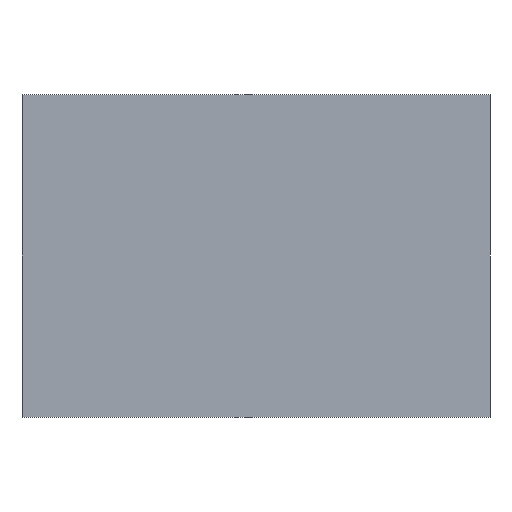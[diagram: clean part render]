
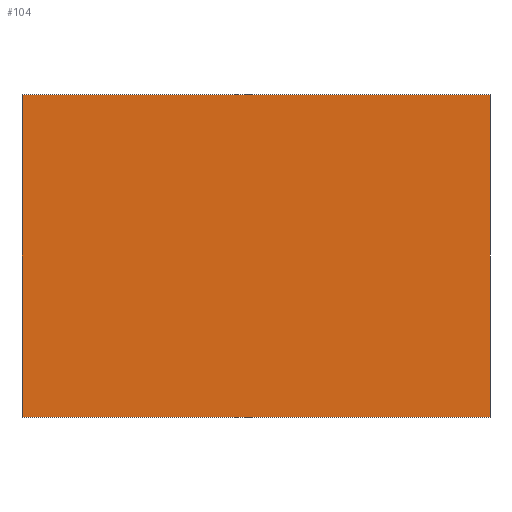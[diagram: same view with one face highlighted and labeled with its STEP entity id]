
A CAD part, left-side view. The second image highlights one B-rep face of the part: STEP entity #104.
In plain terms, the highlighted planar face has unit normal (-1, 0, 0).
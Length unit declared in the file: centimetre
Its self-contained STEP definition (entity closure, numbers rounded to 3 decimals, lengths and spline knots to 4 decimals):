
#18=FACE_OUTER_BOUND('',#24,.T.);
#24=EDGE_LOOP('',(#83,#84,#85,#86));
#29=LINE('',#161,#41);
#33=LINE('',#170,#45);
#35=LINE('',#173,#47);
#37=LINE('',#176,#49);
#41=VECTOR('',#133,1.);
#45=VECTOR('',#139,1.);
#47=VECTOR('',#143,1.);
#49=VECTOR('',#147,1.);
#53=VERTEX_POINT('',#158);
#54=VERTEX_POINT('',#160);
#57=VERTEX_POINT('',#167);
#58=VERTEX_POINT('',#169);
#61=EDGE_CURVE('',#53,#54,#29,.T.);
#65=EDGE_CURVE('',#57,#58,#33,.T.);
#67=EDGE_CURVE('',#54,#57,#35,.T.);
#69=EDGE_CURVE('',#53,#58,#37,.T.);
#83=ORIENTED_EDGE('',*,*,#69,.T.);
#84=ORIENTED_EDGE('',*,*,#65,.F.);
#85=ORIENTED_EDGE('',*,*,#67,.F.);
#86=ORIENTED_EDGE('',*,*,#61,.F.);
#98=PLANE('',#124);
#104=ADVANCED_FACE('',(#18),#98,.F.);
#124=AXIS2_PLACEMENT_3D('',#175,#145,#146);
#133=DIRECTION('',(0.,-1.,0.));
#139=DIRECTION('',(0.,1.,0.));
#143=DIRECTION('',(0.,0.,-1.));
#145=DIRECTION('center_axis',(1.,0.,0.));
#146=DIRECTION('ref_axis',(0.,0.,-1.));
#147=DIRECTION('',(0.,0.,-1.));
#158=CARTESIAN_POINT('',(2.415,-2.489,-0.35));
#160=CARTESIAN_POINT('',(2.415,-4.089,-0.35));
#161=CARTESIAN_POINT('',(2.415,-3.289,-0.35));
#167=CARTESIAN_POINT('',(2.415,-4.089,-1.4515));
#169=CARTESIAN_POINT('',(2.415,-2.489,-1.4515));
#170=CARTESIAN_POINT('',(2.415,-3.289,-1.4515));
#173=CARTESIAN_POINT('',(2.415,-4.089,-0.9008));
#175=CARTESIAN_POINT('Origin',(2.415,-3.289,-0.9008));
#176=CARTESIAN_POINT('',(2.415,-2.489,-0.9008));
